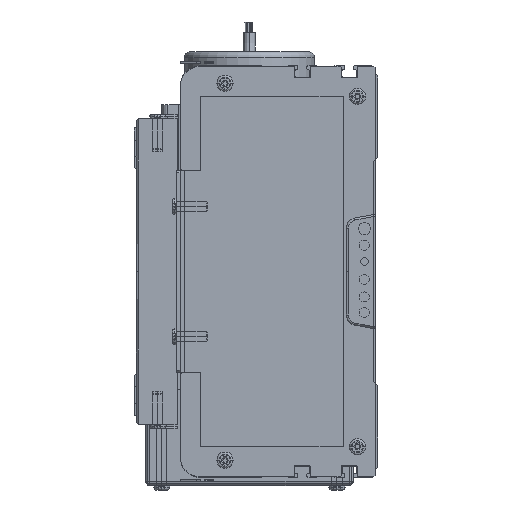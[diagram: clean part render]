
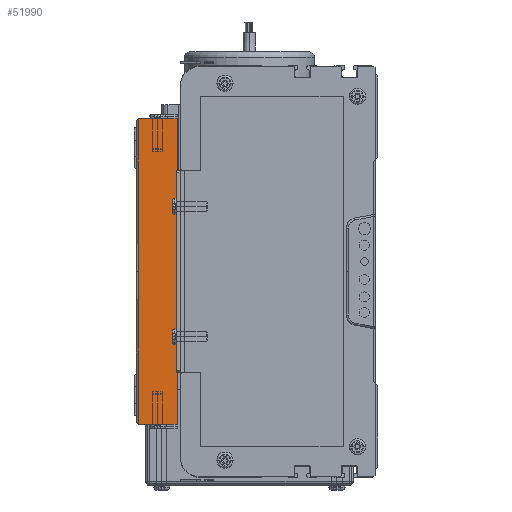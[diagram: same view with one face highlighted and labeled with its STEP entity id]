
A CAD part, left-side view. The second image highlights one B-rep face of the part: STEP entity #51990.
In plain terms, the highlighted planar face has unit normal (-1, 0, 0).
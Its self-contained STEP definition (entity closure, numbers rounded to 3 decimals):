
#14127 = CARTESIAN_POINT ( 'NONE',  ( 0., 0., -75. ) ) ;
#14152 = CARTESIAN_POINT ( 'NONE',  ( 0., 0., 75. ) ) ;
#14185 = DIRECTION ( 'NONE',  ( 0., 0., 1. ) ) ;
#14186 = VECTOR ( 'NONE', #14185, 1000. ) ;
#14193 = CARTESIAN_POINT ( 'NONE',  ( 0., 0., 0. ) ) ;
#14223 = LINE ( 'NONE', #14193, #14186 ) ;
#51565 = EDGE_CURVE ( 'NONE', #67621, #51996, #121255, .T. ) ;
#51667 = EDGE_LOOP ( 'NONE', ( #51993, #51997, #51689, #52003, #51986 ) ) ;
#51689 = ORIENTED_EDGE ( 'NONE', *, *, #51998, .T. ) ;
#51761 = VERTEX_POINT ( 'NONE', #121296 ) ;
#51971 = EDGE_CURVE ( 'NONE', #51761, #105470, #121403, .T. ) ;
#51986 = ORIENTED_EDGE ( 'NONE', *, *, #105466, .T. ) ;
#51990 = ADVANCED_FACE ( 'NONE', ( #121364 ), #121337, .F. ) ;
#51993 = ORIENTED_EDGE ( 'NONE', *, *, #67681, .F. ) ;
#51996 = VERTEX_POINT ( 'NONE', #121334 ) ;
#51997 = ORIENTED_EDGE ( 'NONE', *, *, #51565, .T. ) ;
#51998 = EDGE_CURVE ( 'NONE', #51996, #51761, #121344, .T. ) ;
#52003 = ORIENTED_EDGE ( 'NONE', *, *, #51971, .T. ) ;
#67621 = VERTEX_POINT ( 'NONE', #161737 ) ;
#67681 = EDGE_CURVE ( 'NONE', #67621, #105474, #162011, .T. ) ;
#105466 = EDGE_CURVE ( 'NONE', #105470, #105474, #14223, .T. ) ;
#105470 = VERTEX_POINT ( 'NONE', #14127 ) ;
#105474 = VERTEX_POINT ( 'NONE', #14152 ) ;
#121252 = DIRECTION ( 'NONE',  ( 0., 0., -1. ) ) ;
#121253 = VECTOR ( 'NONE', #121252, 1000. ) ;
#121254 = CARTESIAN_POINT ( 'NONE',  ( 0., 19., 0. ) ) ;
#121255 = LINE ( 'NONE', #121254, #121253 ) ;
#121296 = CARTESIAN_POINT ( 'NONE',  ( 0., 19., -75. ) ) ;
#121328 = DIRECTION ( 'NONE',  ( 0., 0., -1. ) ) ;
#121329 = DIRECTION ( 'NONE',  ( 1., 0., 0. ) ) ;
#121334 = CARTESIAN_POINT ( 'NONE',  ( 0., 19., 0. ) ) ;
#121336 = DIRECTION ( 'NONE',  ( 0., 0., -1. ) ) ;
#121337 = PLANE ( 'NONE',  #121371 ) ;
#121341 = CARTESIAN_POINT ( 'NONE',  ( 0., 20., 0. ) ) ;
#121343 = CARTESIAN_POINT ( 'NONE',  ( 0., 19., 0. ) ) ;
#121344 = LINE ( 'NONE', #121343, #121348 ) ;
#121348 = VECTOR ( 'NONE', #121336, 1000. ) ;
#121364 = FACE_OUTER_BOUND ( 'NONE', #51667, .T. ) ;
#121371 = AXIS2_PLACEMENT_3D ( 'NONE', #121341, #121329, #121328 ) ;
#121393 = DIRECTION ( 'NONE',  ( 0., -1., 0. ) ) ;
#121394 = VECTOR ( 'NONE', #121393, 1000. ) ;
#121402 = CARTESIAN_POINT ( 'NONE',  ( 0., 20., -75. ) ) ;
#121403 = LINE ( 'NONE', #121402, #121394 ) ;
#161737 = CARTESIAN_POINT ( 'NONE',  ( 0., 19., 75. ) ) ;
#162006 = DIRECTION ( 'NONE',  ( 0., -1., 0. ) ) ;
#162007 = VECTOR ( 'NONE', #162006, 1000. ) ;
#162009 = CARTESIAN_POINT ( 'NONE',  ( 0., 20., 75. ) ) ;
#162011 = LINE ( 'NONE', #162009, #162007 ) ;
